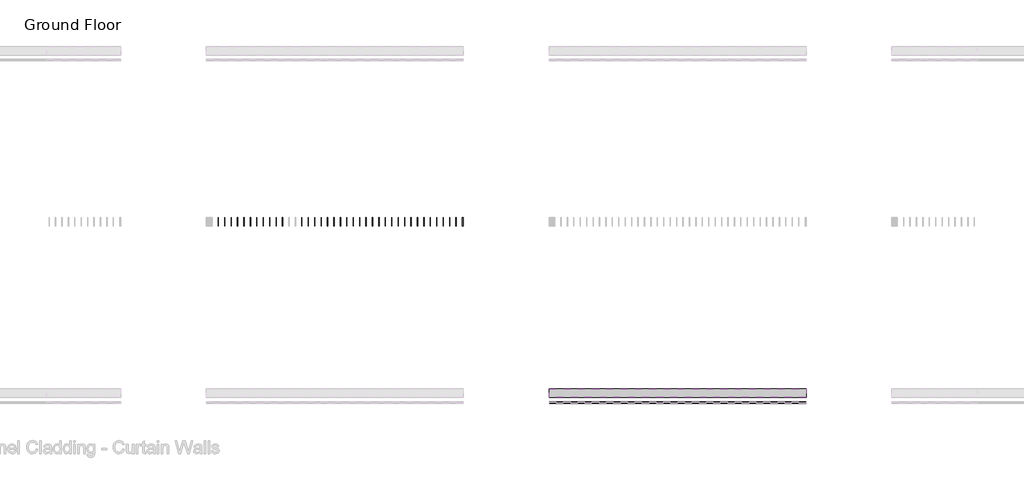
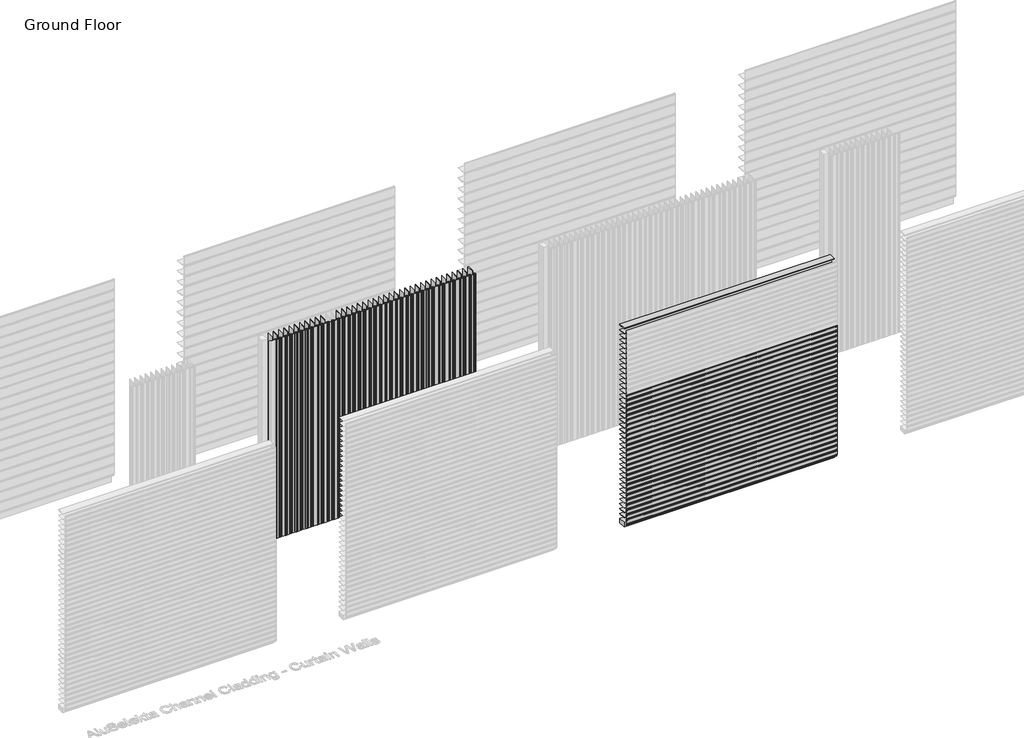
# One storey, part 30 of 350: 77 plates, 64 members.
"""IFC4 building model written with IfcOpenShell, lengths in millimetres."""

from ifc_helpers import new_model, si_unit, origin, place, context, project, spatial, transform, mapped, element, save
from components import rectangular_mullion_894c3da7, empty_system_panel_empty_02c6fd44, empty_system_panel_empty_81cf2ed3, empty_system_panel_empty_a36746fc, empty_system_panel_empty_27b459cb, empty_system_panel_empty_8dc9dcb4

model = new_model("IFC4")

# Units and contexts
model_context = context("Model", 3, world=origin())
ifc_project = project(units=[si_unit("LENGTHUNIT", "METRE", prefix="MILLI")], contexts=[model_context])

# Site, building, storey
site = spatial("IfcSite", under=ifc_project)
building = spatial("IfcBuilding", under=site)
storey = spatial("IfcBuildingStorey", under=building, Name="Ground Floor", Elevation=0.0)

# Members
placement = place(None, origin())
rectangular_mullion_shape = rectangular_mullion_894c3da7(model_context)
element("IfcMember", 1, ObjectType="Rectangular Mullion : Cladding_Aluminium_Modinex_AluSelekta_Channel_75_Cedar", at=placement, inside=storey, context=model_context, shape_type="MappedRepresentation", body=[
    mapped(rectangular_mullion_shape, transform((34566.4361642, 14968.2978302, 0.0), x_axis=(1.0, 0.0, 0.0), y_axis=(0.0, -1.0, 0.0), z_axis=(0.0, 0.0, -1.0))),
])
element("IfcMember", 2, ObjectType="Rectangular Mullion : Cladding_Aluminium_Modinex_AluSelekta_Channel_75_Cedar", at=placement, inside=storey, context=model_context, shape_type="MappedRepresentation", body=[
    mapped(rectangular_mullion_shape, transform((34641.4361642, 14968.2978302, 0.0), x_axis=(1.0, 0.0, 0.0), y_axis=(0.0, -1.0, 0.0), z_axis=(0.0, 0.0, -1.0))),
])
element("IfcMember", 3, ObjectType="Rectangular Mullion : Cladding_Aluminium_Modinex_AluSelekta_Channel_75_Cedar", at=placement, inside=storey, context=model_context, shape_type="MappedRepresentation", body=[
    mapped(rectangular_mullion_shape, transform((34716.4361642, 14968.2978302, 0.0), x_axis=(1.0, 0.0, 0.0), y_axis=(0.0, -1.0, 0.0), z_axis=(0.0, 0.0, -1.0))),
])
element("IfcMember", 4, ObjectType="Rectangular Mullion : Cladding_Aluminium_Modinex_AluSelekta_Channel_75_Cedar", at=placement, inside=storey, context=model_context, shape_type="MappedRepresentation", body=[
    mapped(rectangular_mullion_shape, transform((34791.4361642, 14968.2978302, 0.0), x_axis=(1.0, 0.0, 0.0), y_axis=(0.0, -1.0, 0.0), z_axis=(0.0, 0.0, -1.0))),
])
element("IfcMember", 5, ObjectType="Rectangular Mullion : Cladding_Aluminium_Modinex_AluSelekta_Channel_75_Cedar", at=placement, inside=storey, context=model_context, shape_type="MappedRepresentation", body=[
    mapped(rectangular_mullion_shape, transform((34866.4361642, 14968.2978302, 0.0), x_axis=(1.0, 0.0, 0.0), y_axis=(0.0, -1.0, 0.0), z_axis=(0.0, 0.0, -1.0))),
])
element("IfcMember", 6, ObjectType="Rectangular Mullion : Cladding_Aluminium_Modinex_AluSelekta_Channel_75_Cedar", at=placement, inside=storey, context=model_context, shape_type="MappedRepresentation", body=[
    mapped(rectangular_mullion_shape, transform((34941.4361642, 14968.2978302, 0.0), x_axis=(1.0, 0.0, 0.0), y_axis=(0.0, -1.0, 0.0), z_axis=(0.0, 0.0, -1.0))),
])
element("IfcMember", 7, ObjectType="Rectangular Mullion : Cladding_Aluminium_Modinex_AluSelekta_Channel_75_Cedar", at=placement, inside=storey, context=model_context, shape_type="MappedRepresentation", body=[
    mapped(rectangular_mullion_shape, transform((35016.4361642, 14968.2978302, 0.0), x_axis=(1.0, 0.0, 0.0), y_axis=(0.0, -1.0, 0.0), z_axis=(0.0, 0.0, -1.0))),
])
element("IfcMember", 8, ObjectType="Rectangular Mullion : Cladding_Aluminium_Modinex_AluSelekta_Channel_75_Cedar", at=placement, inside=storey, context=model_context, shape_type="MappedRepresentation", body=[
    mapped(rectangular_mullion_shape, transform((35091.4361642, 14968.2978302, 0.0), x_axis=(1.0, 0.0, 0.0), y_axis=(0.0, -1.0, 0.0), z_axis=(0.0, 0.0, -1.0))),
])
element("IfcMember", 9, ObjectType="Rectangular Mullion : Cladding_Aluminium_Modinex_AluSelekta_Channel_75_Cedar", at=placement, inside=storey, context=model_context, shape_type="MappedRepresentation", body=[
    mapped(rectangular_mullion_shape, transform((35166.4361642, 14968.2978302, 0.0), x_axis=(1.0, 0.0, 0.0), y_axis=(0.0, -1.0, 0.0), z_axis=(0.0, 0.0, -1.0))),
])
element("IfcMember", 10, ObjectType="Rectangular Mullion : Cladding_Aluminium_Modinex_AluSelekta_Channel_75_Cedar", at=placement, inside=storey, context=model_context, shape_type="MappedRepresentation", body=[
    mapped(rectangular_mullion_shape, transform((35241.4361642, 14968.2978302, 0.0), x_axis=(1.0, 0.0, 0.0), y_axis=(0.0, -1.0, 0.0), z_axis=(0.0, 0.0, -1.0))),
])
element("IfcMember", 11, ObjectType="Rectangular Mullion : Cladding_Aluminium_Modinex_AluSelekta_Channel_75_Cedar", at=placement, inside=storey, context=model_context, shape_type="MappedRepresentation", body=[
    mapped(rectangular_mullion_shape, transform((35316.4361642, 14968.2978302, 0.0), x_axis=(1.0, 0.0, 0.0), y_axis=(0.0, -1.0, 0.0), z_axis=(0.0, 0.0, -1.0))),
])
element("IfcMember", 12, ObjectType="Rectangular Mullion : Cladding_Aluminium_Modinex_AluSelekta_Channel_75_Cedar", at=placement, inside=storey, context=model_context, shape_type="MappedRepresentation", body=[
    mapped(rectangular_mullion_shape, transform((35391.4361642, 14968.2978302, 0.0), x_axis=(1.0, 0.0, 0.0), y_axis=(0.0, -1.0, 0.0), z_axis=(0.0, 0.0, -1.0))),
])
element("IfcMember", 13, ObjectType="Rectangular Mullion : Cladding_Aluminium_Modinex_AluSelekta_Channel_75_Cedar", at=placement, inside=storey, context=model_context, shape_type="MappedRepresentation", body=[
    mapped(rectangular_mullion_shape, transform((35466.4361642, 14968.2978302, 0.0), x_axis=(1.0, 0.0, 0.0), y_axis=(0.0, -1.0, 0.0), z_axis=(0.0, 0.0, -1.0))),
])
element("IfcMember", 14, ObjectType="Rectangular Mullion : Cladding_Aluminium_Modinex_AluSelekta_Channel_75_Cedar", at=placement, inside=storey, context=model_context, shape_type="MappedRepresentation", body=[
    mapped(rectangular_mullion_shape, transform((35541.4361642, 14968.2978302, 0.0), x_axis=(1.0, 0.0, 0.0), y_axis=(0.0, -1.0, 0.0), z_axis=(0.0, 0.0, -1.0))),
])
element("IfcMember", 15, ObjectType="Rectangular Mullion : Cladding_Aluminium_Modinex_AluSelekta_Channel_75_Cedar", at=placement, inside=storey, context=model_context, shape_type="MappedRepresentation", body=[
    mapped(rectangular_mullion_shape, transform((35616.4361642, 14968.2978302, 0.0), x_axis=(1.0, 0.0, 0.0), y_axis=(0.0, -1.0, 0.0), z_axis=(0.0, 0.0, -1.0))),
])
element("IfcMember", 16, ObjectType="Rectangular Mullion : Cladding_Aluminium_Modinex_AluSelekta_Channel_75_Cedar", at=placement, inside=storey, context=model_context, shape_type="MappedRepresentation", body=[
    mapped(rectangular_mullion_shape, transform((35691.4361642, 14968.2978302, 0.0), x_axis=(1.0, 0.0, 0.0), y_axis=(0.0, -1.0, 0.0), z_axis=(0.0, 0.0, -1.0))),
])
element("IfcMember", 17, ObjectType="Rectangular Mullion : Cladding_Aluminium_Modinex_AluSelekta_Channel_75_Cedar", at=placement, inside=storey, context=model_context, shape_type="MappedRepresentation", body=[
    mapped(rectangular_mullion_shape, transform((35766.4361642, 14968.2978302, 0.0), x_axis=(1.0, 0.0, 0.0), y_axis=(0.0, -1.0, 0.0), z_axis=(0.0, 0.0, -1.0))),
])
element("IfcMember", 18, ObjectType="Rectangular Mullion : Cladding_Aluminium_Modinex_AluSelekta_Channel_75_Cedar", at=placement, inside=storey, context=model_context, shape_type="MappedRepresentation", body=[
    mapped(rectangular_mullion_shape, transform((35841.4361642, 14968.2978302, 0.0), x_axis=(1.0, 0.0, 0.0), y_axis=(0.0, -1.0, 0.0), z_axis=(0.0, 0.0, -1.0))),
])
element("IfcMember", 19, ObjectType="Rectangular Mullion : Cladding_Aluminium_Modinex_AluSelekta_Channel_75_Cedar", at=placement, inside=storey, context=model_context, shape_type="MappedRepresentation", body=[
    mapped(rectangular_mullion_shape, transform((34491.4361642, 14968.2978302, 0.0), x_axis=(1.0, 0.0, 0.0), y_axis=(0.0, -1.0, 0.0), z_axis=(0.0, 0.0, -1.0))),
])
element("IfcMember", 20, ObjectType="Rectangular Mullion : Cladding_Aluminium_Modinex_AluSelekta_Channel_75_Cedar", at=placement, inside=storey, context=model_context, shape_type="MappedRepresentation", body=[
    mapped(rectangular_mullion_shape, transform((34416.4361642, 14968.2978302, 0.0), x_axis=(1.0, 0.0, 0.0), y_axis=(0.0, -1.0, 0.0), z_axis=(0.0, 0.0, -1.0))),
])
element("IfcMember", 21, ObjectType="Rectangular Mullion : Cladding_Aluminium_Modinex_AluSelekta_Channel_75_Cedar", at=placement, inside=storey, context=model_context, shape_type="MappedRepresentation", body=[
    mapped(rectangular_mullion_shape, transform((34341.4361642, 14968.2978302, 0.0), x_axis=(1.0, 0.0, 0.0), y_axis=(0.0, -1.0, 0.0), z_axis=(0.0, 0.0, -1.0))),
])
element("IfcMember", 22, ObjectType="Rectangular Mullion : Cladding_Aluminium_Modinex_AluSelekta_Channel_75_Cedar", at=placement, inside=storey, context=model_context, shape_type="MappedRepresentation", body=[
    mapped(rectangular_mullion_shape, transform((34266.4361642, 14968.2978302, 0.0), x_axis=(1.0, 0.0, 0.0), y_axis=(0.0, -1.0, 0.0), z_axis=(0.0, 0.0, -1.0))),
])
element("IfcMember", 23, ObjectType="Rectangular Mullion : Cladding_Aluminium_Modinex_AluSelekta_Channel_75_Cedar", at=placement, inside=storey, context=model_context, shape_type="MappedRepresentation", body=[
    mapped(rectangular_mullion_shape, transform((34191.4361642, 14968.2978302, 0.0), x_axis=(1.0, 0.0, 0.0), y_axis=(0.0, -1.0, 0.0), z_axis=(0.0, 0.0, -1.0))),
])
element("IfcMember", 24, ObjectType="Rectangular Mullion : Cladding_Aluminium_Modinex_AluSelekta_Channel_75_Cedar", at=placement, inside=storey, context=model_context, shape_type="MappedRepresentation", body=[
    mapped(rectangular_mullion_shape, transform((34116.4361642, 14968.2978302, 0.0), x_axis=(1.0, 0.0, 0.0), y_axis=(0.0, -1.0, 0.0), z_axis=(0.0, 0.0, -1.0))),
])
element("IfcMember", 25, ObjectType="Rectangular Mullion : Cladding_Aluminium_Modinex_AluSelekta_Channel_75_Cedar", at=placement, inside=storey, context=model_context, shape_type="MappedRepresentation", body=[
    mapped(rectangular_mullion_shape, transform((34041.4361642, 14968.2978302, 0.0), x_axis=(1.0, 0.0, 0.0), y_axis=(0.0, -1.0, 0.0), z_axis=(0.0, 0.0, -1.0))),
])
element("IfcMember", 26, ObjectType="Rectangular Mullion : Cladding_Aluminium_Modinex_AluSelekta_Channel_75_Cedar", at=placement, inside=storey, context=model_context, shape_type="MappedRepresentation", body=[
    mapped(rectangular_mullion_shape, transform((33966.4361642, 14968.2978302, 0.0), x_axis=(1.0, 0.0, 0.0), y_axis=(0.0, -1.0, 0.0), z_axis=(0.0, 0.0, -1.0))),
])
element("IfcMember", 27, ObjectType="Rectangular Mullion : Cladding_Aluminium_Modinex_AluSelekta_Channel_75_Cedar", at=placement, inside=storey, context=model_context, shape_type="MappedRepresentation", body=[
    mapped(rectangular_mullion_shape, transform((33891.4361642, 14968.2978302, 0.0), x_axis=(1.0, 0.0, 0.0), y_axis=(0.0, -1.0, 0.0), z_axis=(0.0, 0.0, -1.0))),
])
element("IfcMember", 28, ObjectType="Rectangular Mullion : Cladding_Aluminium_Modinex_AluSelekta_Channel_75_Cedar", at=placement, inside=storey, context=model_context, shape_type="MappedRepresentation", body=[
    mapped(rectangular_mullion_shape, transform((33816.4361642, 14968.2978302, 0.0), x_axis=(1.0, 0.0, 0.0), y_axis=(0.0, -1.0, 0.0), z_axis=(0.0, 0.0, -1.0))),
])
element("IfcMember", 29, ObjectType="Rectangular Mullion : Cladding_Aluminium_Modinex_AluSelekta_Channel_75_Cedar", at=placement, inside=storey, context=model_context, shape_type="MappedRepresentation", body=[
    mapped(rectangular_mullion_shape, transform((33741.4361642, 14968.2978302, 0.0), x_axis=(1.0, 0.0, 0.0), y_axis=(0.0, -1.0, 0.0), z_axis=(0.0, 0.0, -1.0))),
])
element("IfcMember", 30, ObjectType="Rectangular Mullion : Cladding_Aluminium_Modinex_AluSelekta_Channel_75_Cedar", at=placement, inside=storey, context=model_context, shape_type="MappedRepresentation", body=[
    mapped(rectangular_mullion_shape, transform((33666.4361642, 14968.2978302, 0.0), x_axis=(1.0, 0.0, 0.0), y_axis=(0.0, -1.0, 0.0), z_axis=(0.0, 0.0, -1.0))),
])
element("IfcMember", 31, ObjectType="Rectangular Mullion : Cladding_Aluminium_Modinex_AluSelekta_Channel_75_Cedar", at=placement, inside=storey, context=model_context, shape_type="MappedRepresentation", body=[
    mapped(rectangular_mullion_shape, transform((33591.4361642, 14968.2978302, 0.0), x_axis=(1.0, 0.0, 0.0), y_axis=(0.0, -1.0, 0.0), z_axis=(0.0, 0.0, -1.0))),
])
element("IfcMember", 32, ObjectType="Rectangular Mullion : Cladding_Aluminium_Modinex_AluSelekta_Channel_75_Cedar", at=placement, inside=storey, context=model_context, shape_type="MappedRepresentation", body=[
    mapped(rectangular_mullion_shape, transform((33516.4361642, 14968.2978302, 0.0), x_axis=(1.0, 0.0, 0.0), y_axis=(0.0, -1.0, 0.0), z_axis=(0.0, 0.0, -1.0))),
])
element("IfcMember", 33, ObjectType="Rectangular Mullion : Cladding_Aluminium_Modinex_AluSelekta_Channel_75_Cedar", at=placement, inside=storey, context=model_context, shape_type="MappedRepresentation", body=[
    mapped(rectangular_mullion_shape, transform((33441.4361642, 14968.2978302, 0.0), x_axis=(1.0, 0.0, 0.0), y_axis=(0.0, -1.0, 0.0), z_axis=(0.0, 0.0, -1.0))),
])
element("IfcMember", 34, ObjectType="Rectangular Mullion : Cladding_Aluminium_Modinex_AluSelekta_Channel_75_Cedar", at=placement, inside=storey, context=model_context, shape_type="MappedRepresentation", body=[
    mapped(rectangular_mullion_shape, transform((33366.4361642, 14968.2978302, 0.0), x_axis=(1.0, 0.0, 0.0), y_axis=(0.0, -1.0, 0.0), z_axis=(0.0, 0.0, -1.0))),
])
element("IfcMember", 35, ObjectType="Rectangular Mullion : Cladding_Aluminium_Modinex_AluSelekta_Channel_75_Cedar", at=placement, inside=storey, context=model_context, shape_type="MappedRepresentation", body=[
    mapped(rectangular_mullion_shape, transform((33291.4361642, 14968.2978302, 0.0), x_axis=(1.0, 0.0, 0.0), y_axis=(0.0, -1.0, 0.0), z_axis=(0.0, 0.0, -1.0))),
])
element("IfcMember", 36, ObjectType="Rectangular Mullion : Cladding_Aluminium_Modinex_AluSelekta_Channel_75_Cedar", at=placement, inside=storey, context=model_context, shape_type="MappedRepresentation", body=[
    mapped(rectangular_mullion_shape, transform((33216.4361642, 14968.2978302, 0.0), x_axis=(1.0, 0.0, 0.0), y_axis=(0.0, -1.0, 0.0), z_axis=(0.0, 0.0, -1.0))),
])
element("IfcMember", 37, ObjectType="Rectangular Mullion : Cladding_Aluminium_Modinex_AluSelekta_Channel_75_Cedar", at=placement, inside=storey, context=model_context, shape_type="MappedRepresentation", body=[
    mapped(rectangular_mullion_shape, transform((33141.4361642, 14968.2978302, 0.0), x_axis=(1.0, 0.0, 0.0), y_axis=(0.0, -1.0, 0.0), z_axis=(0.0, 0.0, -1.0))),
])
element("IfcMember", 38, ObjectType="Rectangular Mullion : Cladding_Aluminium_Modinex_AluSelekta_Channel_75_Cedar", at=placement, inside=storey, context=model_context, shape_type="MappedRepresentation", body=[
    mapped(rectangular_mullion_shape, transform((33066.4361642, 14968.2978302, 0.0), x_axis=(1.0, 0.0, 0.0), y_axis=(0.0, -1.0, 0.0), z_axis=(0.0, 0.0, -1.0))),
])
element("IfcMember", 39, ObjectType="Rectangular Mullion : Cladding_Aluminium_Modinex_AluSelekta_Channel_75_EnglishOak", at=placement, inside=storey, context=model_context, shape_type="MappedRepresentation", body=[
    mapped(rectangular_mullion_shape, transform((39916.4361639, 12968.2978302, 75.0), x_axis=(0.0, 0.0, 1.0), y_axis=(0.0, -1.0, 0.0), z_axis=(1.0, 0.0, 0.0))),
])
element("IfcMember", 40, ObjectType="Rectangular Mullion : Cladding_Aluminium_Modinex_AluSelekta_Channel_75_EnglishOak", at=placement, inside=storey, context=model_context, shape_type="MappedRepresentation", body=[
    mapped(rectangular_mullion_shape, transform((39916.4361639, 12968.2978302, 150.0), x_axis=(0.0, 0.0, 1.0), y_axis=(0.0, -1.0, 0.0), z_axis=(1.0, 0.0, 0.0))),
])
element("IfcMember", 41, ObjectType="Rectangular Mullion : Cladding_Aluminium_Modinex_AluSelekta_Channel_75_EnglishOak", at=placement, inside=storey, context=model_context, shape_type="MappedRepresentation", body=[
    mapped(rectangular_mullion_shape, transform((39916.4361639, 12968.2978302, 225.0), x_axis=(0.0, 0.0, 1.0), y_axis=(0.0, -1.0, 0.0), z_axis=(1.0, 0.0, 0.0))),
])
element("IfcMember", 42, ObjectType="Rectangular Mullion : Cladding_Aluminium_Modinex_AluSelekta_Channel_75_EnglishOak", at=placement, inside=storey, context=model_context, shape_type="MappedRepresentation", body=[
    mapped(rectangular_mullion_shape, transform((39916.4361639, 12968.2978302, 300.0), x_axis=(0.0, 0.0, 1.0), y_axis=(0.0, -1.0, 0.0), z_axis=(1.0, 0.0, 0.0))),
])
element("IfcMember", 43, ObjectType="Rectangular Mullion : Cladding_Aluminium_Modinex_AluSelekta_Channel_75_EnglishOak", at=placement, inside=storey, context=model_context, shape_type="MappedRepresentation", body=[
    mapped(rectangular_mullion_shape, transform((39916.4361639, 12968.2978302, 375.0), x_axis=(0.0, 0.0, 1.0), y_axis=(0.0, -1.0, 0.0), z_axis=(1.0, 0.0, 0.0))),
])
element("IfcMember", 44, ObjectType="Rectangular Mullion : Cladding_Aluminium_Modinex_AluSelekta_Channel_75_EnglishOak", at=placement, inside=storey, context=model_context, shape_type="MappedRepresentation", body=[
    mapped(rectangular_mullion_shape, transform((39916.4361639, 12968.2978302, 450.0), x_axis=(0.0, 0.0, 1.0), y_axis=(0.0, -1.0, 0.0), z_axis=(1.0, 0.0, 0.0))),
])
element("IfcMember", 45, ObjectType="Rectangular Mullion : Cladding_Aluminium_Modinex_AluSelekta_Channel_75_EnglishOak", at=placement, inside=storey, context=model_context, shape_type="MappedRepresentation", body=[
    mapped(rectangular_mullion_shape, transform((39916.4361639, 12968.2978302, 525.0), x_axis=(0.0, 0.0, 1.0), y_axis=(0.0, -1.0, 0.0), z_axis=(1.0, 0.0, 0.0))),
])
element("IfcMember", 46, ObjectType="Rectangular Mullion : Cladding_Aluminium_Modinex_AluSelekta_Channel_75_EnglishOak", at=placement, inside=storey, context=model_context, shape_type="MappedRepresentation", body=[
    mapped(rectangular_mullion_shape, transform((39916.4361639, 12968.2978302, 600.0), x_axis=(0.0, 0.0, 1.0), y_axis=(0.0, -1.0, 0.0), z_axis=(1.0, 0.0, 0.0))),
])
element("IfcMember", 47, ObjectType="Rectangular Mullion : Cladding_Aluminium_Modinex_AluSelekta_Channel_75_EnglishOak", at=placement, inside=storey, context=model_context, shape_type="MappedRepresentation", body=[
    mapped(rectangular_mullion_shape, transform((39916.4361639, 12968.2978302, 675.0), x_axis=(0.0, 0.0, 1.0), y_axis=(0.0, -1.0, 0.0), z_axis=(1.0, 0.0, 0.0))),
])
element("IfcMember", 48, ObjectType="Rectangular Mullion : Cladding_Aluminium_Modinex_AluSelekta_Channel_75_EnglishOak", at=placement, inside=storey, context=model_context, shape_type="MappedRepresentation", body=[
    mapped(rectangular_mullion_shape, transform((39916.4361639, 12968.2978302, 750.0), x_axis=(0.0, 0.0, 1.0), y_axis=(0.0, -1.0, 0.0), z_axis=(1.0, 0.0, 0.0))),
])
element("IfcMember", 49, ObjectType="Rectangular Mullion : Cladding_Aluminium_Modinex_AluSelekta_Channel_75_EnglishOak", at=placement, inside=storey, context=model_context, shape_type="MappedRepresentation", body=[
    mapped(rectangular_mullion_shape, transform((39916.4361639, 12968.2978302, 825.0), x_axis=(0.0, 0.0, 1.0), y_axis=(0.0, -1.0, 0.0), z_axis=(1.0, 0.0, 0.0))),
])
element("IfcMember", 50, ObjectType="Rectangular Mullion : Cladding_Aluminium_Modinex_AluSelekta_Channel_75_EnglishOak", at=placement, inside=storey, context=model_context, shape_type="MappedRepresentation", body=[
    mapped(rectangular_mullion_shape, transform((39916.4361639, 12968.2978302, 900.0), x_axis=(0.0, 0.0, 1.0), y_axis=(0.0, -1.0, 0.0), z_axis=(1.0, 0.0, 0.0))),
])
element("IfcMember", 51, ObjectType="Rectangular Mullion : Cladding_Aluminium_Modinex_AluSelekta_Channel_75_EnglishOak", at=placement, inside=storey, context=model_context, shape_type="MappedRepresentation", body=[
    mapped(rectangular_mullion_shape, transform((39916.4361639, 12968.2978302, 975.0), x_axis=(0.0, 0.0, 1.0), y_axis=(0.0, -1.0, 0.0), z_axis=(1.0, 0.0, 0.0))),
])
element("IfcMember", 52, ObjectType="Rectangular Mullion : Cladding_Aluminium_Modinex_AluSelekta_Channel_75_EnglishOak", at=placement, inside=storey, context=model_context, shape_type="MappedRepresentation", body=[
    mapped(rectangular_mullion_shape, transform((39916.4361639, 12968.2978302, 1050.0), x_axis=(0.0, 0.0, 1.0), y_axis=(0.0, -1.0, 0.0), z_axis=(1.0, 0.0, 0.0))),
])
element("IfcMember", 53, ObjectType="Rectangular Mullion : Cladding_Aluminium_Modinex_AluSelekta_Channel_75_EnglishOak", at=placement, inside=storey, context=model_context, shape_type="MappedRepresentation", body=[
    mapped(rectangular_mullion_shape, transform((39916.4361639, 12968.2978302, 1125.0), x_axis=(0.0, 0.0, 1.0), y_axis=(0.0, -1.0, 0.0), z_axis=(1.0, 0.0, 0.0))),
])
element("IfcMember", 54, ObjectType="Rectangular Mullion : Cladding_Aluminium_Modinex_AluSelekta_Channel_75_EnglishOak", at=placement, inside=storey, context=model_context, shape_type="MappedRepresentation", body=[
    mapped(rectangular_mullion_shape, transform((39916.4361639, 12968.2978302, 1200.0), x_axis=(0.0, 0.0, 1.0), y_axis=(0.0, -1.0, 0.0), z_axis=(1.0, 0.0, 0.0))),
])
element("IfcMember", 55, ObjectType="Rectangular Mullion : Cladding_Aluminium_Modinex_AluSelekta_Channel_75_EnglishOak", at=placement, inside=storey, context=model_context, shape_type="MappedRepresentation", body=[
    mapped(rectangular_mullion_shape, transform((39916.4361639, 12968.2978302, 1275.0), x_axis=(0.0, 0.0, 1.0), y_axis=(0.0, -1.0, 0.0), z_axis=(1.0, 0.0, 0.0))),
])
element("IfcMember", 56, ObjectType="Rectangular Mullion : Cladding_Aluminium_Modinex_AluSelekta_Channel_75_EnglishOak", at=placement, inside=storey, context=model_context, shape_type="MappedRepresentation", body=[
    mapped(rectangular_mullion_shape, transform((39916.4361639, 12968.2978302, 1350.0), x_axis=(0.0, 0.0, 1.0), y_axis=(0.0, -1.0, 0.0), z_axis=(1.0, 0.0, 0.0))),
])
element("IfcMember", 57, ObjectType="Rectangular Mullion : Cladding_Aluminium_Modinex_AluSelekta_Channel_75_EnglishOak", at=placement, inside=storey, context=model_context, shape_type="MappedRepresentation", body=[
    mapped(rectangular_mullion_shape, transform((39916.4361639, 12968.2978302, 1425.0), x_axis=(0.0, 0.0, 1.0), y_axis=(0.0, -1.0, 0.0), z_axis=(1.0, 0.0, 0.0))),
])
element("IfcMember", 58, ObjectType="Rectangular Mullion : Cladding_Aluminium_Modinex_AluSelekta_Channel_75_EnglishOak", at=placement, inside=storey, context=model_context, shape_type="MappedRepresentation", body=[
    mapped(rectangular_mullion_shape, transform((39916.4361639, 12968.2978302, 1500.0), x_axis=(0.0, 0.0, 1.0), y_axis=(0.0, -1.0, 0.0), z_axis=(1.0, 0.0, 0.0))),
])
element("IfcMember", 59, ObjectType="Rectangular Mullion : Cladding_Aluminium_Modinex_AluSelekta_Channel_75_EnglishOak", at=placement, inside=storey, context=model_context, shape_type="MappedRepresentation", body=[
    mapped(rectangular_mullion_shape, transform((39916.4361639, 12968.2978302, 1575.0), x_axis=(0.0, 0.0, 1.0), y_axis=(0.0, -1.0, 0.0), z_axis=(1.0, 0.0, 0.0))),
])
element("IfcMember", 60, ObjectType="Rectangular Mullion : Cladding_Aluminium_Modinex_AluSelekta_Channel_75_EnglishOak", at=placement, inside=storey, context=model_context, shape_type="MappedRepresentation", body=[
    mapped(rectangular_mullion_shape, transform((39916.4361639, 12968.2978302, 1650.0), x_axis=(0.0, 0.0, 1.0), y_axis=(0.0, -1.0, 0.0), z_axis=(1.0, 0.0, 0.0))),
])
element("IfcMember", 61, ObjectType="Rectangular Mullion : Cladding_Aluminium_Modinex_AluSelekta_Channel_75_EnglishOak", at=placement, inside=storey, context=model_context, shape_type="MappedRepresentation", body=[
    mapped(rectangular_mullion_shape, transform((39916.4361639, 12968.2978302, 1725.0), x_axis=(0.0, 0.0, 1.0), y_axis=(0.0, -1.0, 0.0), z_axis=(1.0, 0.0, 0.0))),
])
element("IfcMember", 62, ObjectType="Rectangular Mullion : Cladding_Aluminium_Modinex_AluSelekta_Channel_75_EnglishOak", at=placement, inside=storey, context=model_context, shape_type="MappedRepresentation", body=[
    mapped(rectangular_mullion_shape, transform((39916.4361639, 12968.2978302, 1800.0), x_axis=(0.0, 0.0, 1.0), y_axis=(0.0, -1.0, 0.0), z_axis=(1.0, 0.0, 0.0))),
])
element("IfcMember", 63, ObjectType="Rectangular Mullion : Cladding_Aluminium_Modinex_AluSelekta_Channel_75_EnglishOak", at=placement, inside=storey, context=model_context, shape_type="MappedRepresentation", body=[
    mapped(rectangular_mullion_shape, transform((39916.4361639, 12968.2978302, 1875.0), x_axis=(0.0, 0.0, 1.0), y_axis=(0.0, -1.0, 0.0), z_axis=(1.0, 0.0, 0.0))),
])
element("IfcMember", 64, ObjectType="Rectangular Mullion : Cladding_Aluminium_Modinex_AluSelekta_Channel_75_EnglishOak", at=placement, inside=storey, context=model_context, shape_type="MappedRepresentation", body=[
    mapped(rectangular_mullion_shape, transform((39916.4361639, 12968.2978302, 1950.0), x_axis=(0.0, 0.0, 1.0), y_axis=(0.0, -1.0, 0.0), z_axis=(1.0, 0.0, 0.0))),
])

# Plates
empty_system_panel_empty_shape = empty_system_panel_empty_02c6fd44(model_context)
element("IfcPlate", 65, ObjectType="Empty System Panel : Empty", at=placement, inside=storey, context=model_context, shape_type="MappedRepresentation", body=[
    mapped(empty_system_panel_empty_shape, transform((38416.4361639, 12968.2978302, 137.2580963), x_axis=(1.0, 0.0, 0.0), y_axis=(0.0, 1.0, 0.0), z_axis=(0.0, 0.0, 1.0))),
])
element("IfcPlate", 66, ObjectType="Empty System Panel : Empty", at=placement, inside=storey, context=model_context, shape_type="MappedRepresentation", body=[
    mapped(empty_system_panel_empty_shape, transform((38416.4361639, 12968.2978302, 212.2580963), x_axis=(1.0, 0.0, 0.0), y_axis=(0.0, 1.0, 0.0), z_axis=(0.0, 0.0, 1.0))),
])
element("IfcPlate", 67, ObjectType="Empty System Panel : Empty", at=placement, inside=storey, context=model_context, shape_type="MappedRepresentation", body=[
    mapped(empty_system_panel_empty_shape, transform((38416.4361639, 12968.2978302, 287.2580963), x_axis=(1.0, 0.0, 0.0), y_axis=(0.0, 1.0, 0.0), z_axis=(0.0, 0.0, 1.0))),
])
element("IfcPlate", 68, ObjectType="Empty System Panel : Empty", at=placement, inside=storey, context=model_context, shape_type="MappedRepresentation", body=[
    mapped(empty_system_panel_empty_shape, transform((38416.4361639, 12968.2978302, 362.2580963), x_axis=(1.0, 0.0, 0.0), y_axis=(0.0, 1.0, 0.0), z_axis=(0.0, 0.0, 1.0))),
])
element("IfcPlate", 69, ObjectType="Empty System Panel : Empty", at=placement, inside=storey, context=model_context, shape_type="MappedRepresentation", body=[
    mapped(empty_system_panel_empty_shape, transform((38416.4361639, 12968.2978302, 437.2580963), x_axis=(1.0, 0.0, 0.0), y_axis=(0.0, 1.0, 0.0), z_axis=(0.0, 0.0, 1.0))),
])
element("IfcPlate", 70, ObjectType="Empty System Panel : Empty", at=placement, inside=storey, context=model_context, shape_type="MappedRepresentation", body=[
    mapped(empty_system_panel_empty_shape, transform((38416.4361639, 12968.2978302, 512.2580963), x_axis=(1.0, 0.0, 0.0), y_axis=(0.0, 1.0, 0.0), z_axis=(0.0, 0.0, 1.0))),
])
element("IfcPlate", 71, ObjectType="Empty System Panel : Empty", at=placement, inside=storey, context=model_context, shape_type="MappedRepresentation", body=[
    mapped(empty_system_panel_empty_shape, transform((38416.4361639, 12968.2978302, 587.2580963), x_axis=(1.0, 0.0, 0.0), y_axis=(0.0, 1.0, 0.0), z_axis=(0.0, 0.0, 1.0))),
])
element("IfcPlate", 72, ObjectType="Empty System Panel : Empty", at=placement, inside=storey, context=model_context, shape_type="MappedRepresentation", body=[
    mapped(empty_system_panel_empty_shape, transform((38416.4361639, 12968.2978302, 662.2580963), x_axis=(1.0, 0.0, 0.0), y_axis=(0.0, 1.0, 0.0), z_axis=(0.0, 0.0, 1.0))),
])
element("IfcPlate", 73, ObjectType="Empty System Panel : Empty", at=placement, inside=storey, context=model_context, shape_type="MappedRepresentation", body=[
    mapped(empty_system_panel_empty_shape, transform((38416.4361639, 12968.2978302, 737.2580963), x_axis=(1.0, 0.0, 0.0), y_axis=(0.0, 1.0, 0.0), z_axis=(0.0, 0.0, 1.0))),
])
element("IfcPlate", 74, ObjectType="Empty System Panel : Empty", at=placement, inside=storey, context=model_context, shape_type="MappedRepresentation", body=[
    mapped(empty_system_panel_empty_shape, transform((38416.4361639, 12968.2978302, 812.2580963), x_axis=(1.0, 0.0, 0.0), y_axis=(0.0, 1.0, 0.0), z_axis=(0.0, 0.0, 1.0))),
])
element("IfcPlate", 75, ObjectType="Empty System Panel : Empty", at=placement, inside=storey, context=model_context, shape_type="MappedRepresentation", body=[
    mapped(empty_system_panel_empty_shape, transform((38416.4361639, 12968.2978302, 887.2580963), x_axis=(1.0, 0.0, 0.0), y_axis=(0.0, 1.0, 0.0), z_axis=(0.0, 0.0, 1.0))),
])
element("IfcPlate", 76, ObjectType="Empty System Panel : Empty", at=placement, inside=storey, context=model_context, shape_type="MappedRepresentation", body=[
    mapped(empty_system_panel_empty_shape, transform((38416.4361639, 12968.2978302, 962.2580963), x_axis=(1.0, 0.0, 0.0), y_axis=(0.0, 1.0, 0.0), z_axis=(0.0, 0.0, 1.0))),
])
element("IfcPlate", 77, ObjectType="Empty System Panel : Empty", at=placement, inside=storey, context=model_context, shape_type="MappedRepresentation", body=[
    mapped(empty_system_panel_empty_shape, transform((38416.4361639, 12968.2978302, 1037.2580963), x_axis=(1.0, 0.0, 0.0), y_axis=(0.0, 1.0, 0.0), z_axis=(0.0, 0.0, 1.0))),
])
element("IfcPlate", 78, ObjectType="Empty System Panel : Empty", at=placement, inside=storey, context=model_context, shape_type="MappedRepresentation", body=[
    mapped(empty_system_panel_empty_shape, transform((38416.4361639, 12968.2978302, 1112.2580963), x_axis=(1.0, 0.0, 0.0), y_axis=(0.0, 1.0, 0.0), z_axis=(0.0, 0.0, 1.0))),
])
element("IfcPlate", 79, ObjectType="Empty System Panel : Empty", at=placement, inside=storey, context=model_context, shape_type="MappedRepresentation", body=[
    mapped(empty_system_panel_empty_shape, transform((38416.4361639, 12968.2978302, 1187.2580963), x_axis=(1.0, 0.0, 0.0), y_axis=(0.0, 1.0, 0.0), z_axis=(0.0, 0.0, 1.0))),
])
element("IfcPlate", 80, ObjectType="Empty System Panel : Empty", at=placement, inside=storey, context=model_context, shape_type="MappedRepresentation", body=[
    mapped(empty_system_panel_empty_shape, transform((38416.4361639, 12968.2978302, 1262.2580963), x_axis=(1.0, 0.0, 0.0), y_axis=(0.0, 1.0, 0.0), z_axis=(0.0, 0.0, 1.0))),
])
element("IfcPlate", 81, ObjectType="Empty System Panel : Empty", at=placement, inside=storey, context=model_context, shape_type="MappedRepresentation", body=[
    mapped(empty_system_panel_empty_shape, transform((38416.4361639, 12968.2978302, 1337.2580963), x_axis=(1.0, 0.0, 0.0), y_axis=(0.0, 1.0, 0.0), z_axis=(0.0, 0.0, 1.0))),
])
element("IfcPlate", 82, ObjectType="Empty System Panel : Empty", at=placement, inside=storey, context=model_context, shape_type="MappedRepresentation", body=[
    mapped(empty_system_panel_empty_shape, transform((38416.4361639, 12968.2978302, 1412.2580963), x_axis=(1.0, 0.0, 0.0), y_axis=(0.0, 1.0, 0.0), z_axis=(0.0, 0.0, 1.0))),
])
element("IfcPlate", 83, ObjectType="Empty System Panel : Empty", at=placement, inside=storey, context=model_context, shape_type="MappedRepresentation", body=[
    mapped(empty_system_panel_empty_shape, transform((38416.4361639, 12968.2978302, 1487.2580963), x_axis=(1.0, 0.0, 0.0), y_axis=(0.0, 1.0, 0.0), z_axis=(0.0, 0.0, 1.0))),
])
element("IfcPlate", 84, ObjectType="Empty System Panel : Empty", at=placement, inside=storey, context=model_context, shape_type="MappedRepresentation", body=[
    mapped(empty_system_panel_empty_shape, transform((38416.4361639, 12968.2978302, 1562.2580963), x_axis=(1.0, 0.0, 0.0), y_axis=(0.0, 1.0, 0.0), z_axis=(0.0, 0.0, 1.0))),
])
element("IfcPlate", 85, ObjectType="Empty System Panel : Empty", at=placement, inside=storey, context=model_context, shape_type="MappedRepresentation", body=[
    mapped(empty_system_panel_empty_shape, transform((38416.4361639, 12968.2978302, 1637.2580963), x_axis=(1.0, 0.0, 0.0), y_axis=(0.0, 1.0, 0.0), z_axis=(0.0, 0.0, 1.0))),
])
element("IfcPlate", 86, ObjectType="Empty System Panel : Empty", at=placement, inside=storey, context=model_context, shape_type="MappedRepresentation", body=[
    mapped(empty_system_panel_empty_shape, transform((38416.4361639, 12968.2978302, 1712.2580963), x_axis=(1.0, 0.0, 0.0), y_axis=(0.0, 1.0, 0.0), z_axis=(0.0, 0.0, 1.0))),
])
element("IfcPlate", 87, ObjectType="Empty System Panel : Empty", at=placement, inside=storey, context=model_context, shape_type="MappedRepresentation", body=[
    mapped(empty_system_panel_empty_shape, transform((38416.4361639, 12968.2978302, 1787.2580963), x_axis=(1.0, 0.0, 0.0), y_axis=(0.0, 1.0, 0.0), z_axis=(0.0, 0.0, 1.0))),
])
element("IfcPlate", 88, ObjectType="Empty System Panel : Empty", at=placement, inside=storey, context=model_context, shape_type="MappedRepresentation", body=[
    mapped(empty_system_panel_empty_shape, transform((38416.4361639, 12968.2978302, 1862.2580963), x_axis=(1.0, 0.0, 0.0), y_axis=(0.0, 1.0, 0.0), z_axis=(0.0, 0.0, 1.0))),
])
element("IfcPlate", 89, ObjectType="Empty System Panel : Empty", at=placement, inside=storey, context=model_context, shape_type="MappedRepresentation", body=[
    mapped(empty_system_panel_empty_shape, transform((38416.4361639, 12968.2978302, 1937.2580963), x_axis=(1.0, 0.0, 0.0), y_axis=(0.0, 1.0, 0.0), z_axis=(0.0, 0.0, 1.0))),
])
element("IfcPlate", 90, ObjectType="Empty System Panel : Empty", at=placement, inside=storey, context=model_context, shape_type="MappedRepresentation", body=[
    mapped(empty_system_panel_empty_shape, transform((38416.4361639, 12968.2978302, 2012.2580963), x_axis=(1.0, 0.0, 0.0), y_axis=(0.0, 1.0, 0.0), z_axis=(0.0, 0.0, 1.0))),
])
element("IfcPlate", 91, ObjectType="Empty System Panel : Empty", at=placement, inside=storey, context=model_context, shape_type="MappedRepresentation", body=[
    mapped(empty_system_panel_empty_shape, transform((38416.4361639, 12968.2978302, 2087.2580963), x_axis=(1.0, 0.0, 0.0), y_axis=(0.0, 1.0, 0.0), z_axis=(0.0, 0.0, 1.0))),
])
element("IfcPlate", 92, ObjectType="Empty System Panel : Empty", at=placement, inside=storey, context=model_context, shape_type="MappedRepresentation", body=[
    mapped(empty_system_panel_empty_shape, transform((38416.4361639, 12968.2978302, 2162.2580963), x_axis=(1.0, 0.0, 0.0), y_axis=(0.0, 1.0, 0.0), z_axis=(0.0, 0.0, 1.0))),
])
element("IfcPlate", 93, ObjectType="Empty System Panel : Empty", at=placement, inside=storey, context=model_context, shape_type="MappedRepresentation", body=[
    mapped(empty_system_panel_empty_shape, transform((38416.4361639, 12968.2978302, 2237.2580963), x_axis=(1.0, 0.0, 0.0), y_axis=(0.0, 1.0, 0.0), z_axis=(0.0, 0.0, 1.0))),
])
element("IfcPlate", 94, ObjectType="Empty System Panel : Empty", at=placement, inside=storey, context=model_context, shape_type="MappedRepresentation", body=[
    mapped(empty_system_panel_empty_shape, transform((38416.4361639, 12968.2978302, 2312.2580963), x_axis=(1.0, 0.0, 0.0), y_axis=(0.0, 1.0, 0.0), z_axis=(0.0, 0.0, 1.0))),
])
element("IfcPlate", 95, ObjectType="Empty System Panel : Empty", at=placement, inside=storey, context=model_context, shape_type="MappedRepresentation", body=[
    mapped(empty_system_panel_empty_shape, transform((38416.4361639, 12968.2978302, 2387.2580963), x_axis=(1.0, 0.0, 0.0), y_axis=(0.0, 1.0, 0.0), z_axis=(0.0, 0.0, 1.0))),
])
element("IfcPlate", 96, ObjectType="Empty System Panel : Empty", at=placement, inside=storey, context=model_context, shape_type="MappedRepresentation", body=[
    mapped(empty_system_panel_empty_shape, transform((38416.4361639, 12968.2978302, 2462.2580963), x_axis=(1.0, 0.0, 0.0), y_axis=(0.0, 1.0, 0.0), z_axis=(0.0, 0.0, 1.0))),
])
element("IfcPlate", 97, ObjectType="Empty System Panel : Empty", at=placement, inside=storey, context=model_context, shape_type="MappedRepresentation", body=[
    mapped(empty_system_panel_empty_shape, transform((38416.4361639, 12968.2978302, 2537.2580963), x_axis=(1.0, 0.0, 0.0), y_axis=(0.0, 1.0, 0.0), z_axis=(0.0, 0.0, 1.0))),
])
element("IfcPlate", 98, ObjectType="Empty System Panel : Empty", at=placement, inside=storey, context=model_context, shape_type="MappedRepresentation", body=[
    mapped(empty_system_panel_empty_shape, transform((38416.4361639, 12968.2978302, 2612.2580963), x_axis=(1.0, 0.0, 0.0), y_axis=(0.0, 1.0, 0.0), z_axis=(0.0, 0.0, 1.0))),
])
element("IfcPlate", 99, ObjectType="Empty System Panel : Empty", at=placement, inside=storey, context=model_context, shape_type="MappedRepresentation", body=[
    mapped(empty_system_panel_empty_shape, transform((38416.4361639, 12968.2978302, 2687.2580963), x_axis=(1.0, 0.0, 0.0), y_axis=(0.0, 1.0, 0.0), z_axis=(0.0, 0.0, 1.0))),
])
element("IfcPlate", 100, ObjectType="Empty System Panel : Empty", at=placement, inside=storey, context=model_context, shape_type="MappedRepresentation", body=[
    mapped(empty_system_panel_empty_shape, transform((38416.4361639, 12968.2978302, 2762.2580963), x_axis=(1.0, 0.0, 0.0), y_axis=(0.0, 1.0, 0.0), z_axis=(0.0, 0.0, 1.0))),
])
element("IfcPlate", 101, ObjectType="Empty System Panel : Empty", at=placement, inside=storey, context=model_context, shape_type="MappedRepresentation", body=[
    mapped(empty_system_panel_empty_shape, transform((38416.4361639, 12968.2978302, 2837.2580963), x_axis=(1.0, 0.0, 0.0), y_axis=(0.0, 1.0, 0.0), z_axis=(0.0, 0.0, 1.0))),
])
element("IfcPlate", 102, ObjectType="Empty System Panel : Empty", at=placement, inside=storey, context=model_context, shape_type="MappedRepresentation", body=[
    mapped(empty_system_panel_empty_shape, transform((38416.4361639, 12968.2978302, 2912.2580963), x_axis=(1.0, 0.0, 0.0), y_axis=(0.0, 1.0, 0.0), z_axis=(0.0, 0.0, 1.0))),
])
empty_system_panel_empty_2_shape = empty_system_panel_empty_81cf2ed3(model_context)
element("IfcPlate", 103, ObjectType="Empty System Panel : Empty", at=placement, inside=storey, context=model_context, shape_type="MappedRepresentation", body=[
    mapped(empty_system_panel_empty_2_shape, transform((38416.4361639, 12968.2978302, 0.0), x_axis=(1.0, 0.0, 0.0), y_axis=(0.0, 1.0, 0.0), z_axis=(0.0, 0.0, 1.0))),
])
empty_system_panel_empty_3_shape = empty_system_panel_empty_a36746fc(model_context)
element("IfcPlate", 104, ObjectType="Empty System Panel : Empty", at=placement, inside=storey, context=model_context, shape_type="MappedRepresentation", body=[
    mapped(empty_system_panel_empty_3_shape, transform((38416.4361639, 12968.2978302, 2987.2580963), x_axis=(1.0, 0.0, 0.0), y_axis=(0.0, 1.0, 0.0), z_axis=(0.0, 0.0, 1.0))),
])
empty_system_panel_empty_4_shape = empty_system_panel_empty_27b459cb(model_context)
element("IfcPlate", 105, ObjectType="Empty System Panel : Empty", at=placement, inside=storey, context=model_context, shape_type="MappedRepresentation", body=[
    mapped(empty_system_panel_empty_4_shape, transform((34629.9529326, 14968.2978302, 0.0), x_axis=(1.0, 0.0, 0.0), y_axis=(0.0, 1.0, 0.0), z_axis=(0.0, 0.0, 1.0))),
])
element("IfcPlate", 106, ObjectType="Empty System Panel : Empty", at=placement, inside=storey, context=model_context, shape_type="MappedRepresentation", body=[
    mapped(empty_system_panel_empty_4_shape, transform((34704.9529326, 14968.2978302, 0.0), x_axis=(1.0, 0.0, 0.0), y_axis=(0.0, 1.0, 0.0), z_axis=(0.0, 0.0, 1.0))),
])
element("IfcPlate", 107, ObjectType="Empty System Panel : Empty", at=placement, inside=storey, context=model_context, shape_type="MappedRepresentation", body=[
    mapped(empty_system_panel_empty_4_shape, transform((34779.9529326, 14968.2978302, 0.0), x_axis=(1.0, 0.0, 0.0), y_axis=(0.0, 1.0, 0.0), z_axis=(0.0, 0.0, 1.0))),
])
element("IfcPlate", 108, ObjectType="Empty System Panel : Empty", at=placement, inside=storey, context=model_context, shape_type="MappedRepresentation", body=[
    mapped(empty_system_panel_empty_4_shape, transform((34854.9529326, 14968.2978302, 0.0), x_axis=(1.0, 0.0, 0.0), y_axis=(0.0, 1.0, 0.0), z_axis=(0.0, 0.0, 1.0))),
])
element("IfcPlate", 109, ObjectType="Empty System Panel : Empty", at=placement, inside=storey, context=model_context, shape_type="MappedRepresentation", body=[
    mapped(empty_system_panel_empty_4_shape, transform((34929.9529326, 14968.2978302, 0.0), x_axis=(1.0, 0.0, 0.0), y_axis=(0.0, 1.0, 0.0), z_axis=(0.0, 0.0, 1.0))),
])
element("IfcPlate", 110, ObjectType="Empty System Panel : Empty", at=placement, inside=storey, context=model_context, shape_type="MappedRepresentation", body=[
    mapped(empty_system_panel_empty_4_shape, transform((35004.9529326, 14968.2978302, 0.0), x_axis=(1.0, 0.0, 0.0), y_axis=(0.0, 1.0, 0.0), z_axis=(0.0, 0.0, 1.0))),
])
element("IfcPlate", 111, ObjectType="Empty System Panel : Empty", at=placement, inside=storey, context=model_context, shape_type="MappedRepresentation", body=[
    mapped(empty_system_panel_empty_4_shape, transform((35079.9529326, 14968.2978302, 0.0), x_axis=(1.0, 0.0, 0.0), y_axis=(0.0, 1.0, 0.0), z_axis=(0.0, 0.0, 1.0))),
])
element("IfcPlate", 112, ObjectType="Empty System Panel : Empty", at=placement, inside=storey, context=model_context, shape_type="MappedRepresentation", body=[
    mapped(empty_system_panel_empty_4_shape, transform((35154.9529326, 14968.2978302, 0.0), x_axis=(1.0, 0.0, 0.0), y_axis=(0.0, 1.0, 0.0), z_axis=(0.0, 0.0, 1.0))),
])
element("IfcPlate", 113, ObjectType="Empty System Panel : Empty", at=placement, inside=storey, context=model_context, shape_type="MappedRepresentation", body=[
    mapped(empty_system_panel_empty_4_shape, transform((35229.9529326, 14968.2978302, 0.0), x_axis=(1.0, 0.0, 0.0), y_axis=(0.0, 1.0, 0.0), z_axis=(0.0, 0.0, 1.0))),
])
element("IfcPlate", 114, ObjectType="Empty System Panel : Empty", at=placement, inside=storey, context=model_context, shape_type="MappedRepresentation", body=[
    mapped(empty_system_panel_empty_4_shape, transform((35304.9529326, 14968.2978302, 0.0), x_axis=(1.0, 0.0, 0.0), y_axis=(0.0, 1.0, 0.0), z_axis=(0.0, 0.0, 1.0))),
])
element("IfcPlate", 115, ObjectType="Empty System Panel : Empty", at=placement, inside=storey, context=model_context, shape_type="MappedRepresentation", body=[
    mapped(empty_system_panel_empty_4_shape, transform((35379.9529326, 14968.2978302, 0.0), x_axis=(1.0, 0.0, 0.0), y_axis=(0.0, 1.0, 0.0), z_axis=(0.0, 0.0, 1.0))),
])
element("IfcPlate", 116, ObjectType="Empty System Panel : Empty", at=placement, inside=storey, context=model_context, shape_type="MappedRepresentation", body=[
    mapped(empty_system_panel_empty_4_shape, transform((35454.9529326, 14968.2978302, 0.0), x_axis=(1.0, 0.0, 0.0), y_axis=(0.0, 1.0, 0.0), z_axis=(0.0, 0.0, 1.0))),
])
element("IfcPlate", 117, ObjectType="Empty System Panel : Empty", at=placement, inside=storey, context=model_context, shape_type="MappedRepresentation", body=[
    mapped(empty_system_panel_empty_4_shape, transform((35529.9529326, 14968.2978302, 0.0), x_axis=(1.0, 0.0, 0.0), y_axis=(0.0, 1.0, 0.0), z_axis=(0.0, 0.0, 1.0))),
])
element("IfcPlate", 118, ObjectType="Empty System Panel : Empty", at=placement, inside=storey, context=model_context, shape_type="MappedRepresentation", body=[
    mapped(empty_system_panel_empty_4_shape, transform((35604.9529326, 14968.2978302, 0.0), x_axis=(1.0, 0.0, 0.0), y_axis=(0.0, 1.0, 0.0), z_axis=(0.0, 0.0, 1.0))),
])
element("IfcPlate", 119, ObjectType="Empty System Panel : Empty", at=placement, inside=storey, context=model_context, shape_type="MappedRepresentation", body=[
    mapped(empty_system_panel_empty_4_shape, transform((35679.9529326, 14968.2978302, 0.0), x_axis=(1.0, 0.0, 0.0), y_axis=(0.0, 1.0, 0.0), z_axis=(0.0, 0.0, 1.0))),
])
element("IfcPlate", 120, ObjectType="Empty System Panel : Empty", at=placement, inside=storey, context=model_context, shape_type="MappedRepresentation", body=[
    mapped(empty_system_panel_empty_4_shape, transform((35754.9529326, 14968.2978302, 0.0), x_axis=(1.0, 0.0, 0.0), y_axis=(0.0, 1.0, 0.0), z_axis=(0.0, 0.0, 1.0))),
])
element("IfcPlate", 121, ObjectType="Empty System Panel : Empty", at=placement, inside=storey, context=model_context, shape_type="MappedRepresentation", body=[
    mapped(empty_system_panel_empty_4_shape, transform((35829.9529326, 14968.2978302, 0.0), x_axis=(1.0, 0.0, 0.0), y_axis=(0.0, 1.0, 0.0), z_axis=(0.0, 0.0, 1.0))),
])
element("IfcPlate", 122, ObjectType="Empty System Panel : Empty", at=placement, inside=storey, context=model_context, shape_type="MappedRepresentation", body=[
    mapped(empty_system_panel_empty_4_shape, transform((34554.9529326, 14968.2978302, 0.0), x_axis=(1.0, 0.0, 0.0), y_axis=(0.0, 1.0, 0.0), z_axis=(0.0, 0.0, 1.0))),
])
element("IfcPlate", 123, ObjectType="Empty System Panel : Empty", at=placement, inside=storey, context=model_context, shape_type="MappedRepresentation", body=[
    mapped(empty_system_panel_empty_4_shape, transform((34479.9529326, 14968.2978302, 0.0), x_axis=(1.0, 0.0, 0.0), y_axis=(0.0, 1.0, 0.0), z_axis=(0.0, 0.0, 1.0))),
])
element("IfcPlate", 124, ObjectType="Empty System Panel : Empty", at=placement, inside=storey, context=model_context, shape_type="MappedRepresentation", body=[
    mapped(empty_system_panel_empty_4_shape, transform((34404.9529326, 14968.2978302, 0.0), x_axis=(1.0, 0.0, 0.0), y_axis=(0.0, 1.0, 0.0), z_axis=(0.0, 0.0, 1.0))),
])
element("IfcPlate", 125, ObjectType="Empty System Panel : Empty", at=placement, inside=storey, context=model_context, shape_type="MappedRepresentation", body=[
    mapped(empty_system_panel_empty_4_shape, transform((34329.9529326, 14968.2978302, 0.0), x_axis=(1.0, 0.0, 0.0), y_axis=(0.0, 1.0, 0.0), z_axis=(0.0, 0.0, 1.0))),
])
element("IfcPlate", 126, ObjectType="Empty System Panel : Empty", at=placement, inside=storey, context=model_context, shape_type="MappedRepresentation", body=[
    mapped(empty_system_panel_empty_4_shape, transform((34254.9529326, 14968.2978302, 0.0), x_axis=(1.0, 0.0, 0.0), y_axis=(0.0, 1.0, 0.0), z_axis=(0.0, 0.0, 1.0))),
])
element("IfcPlate", 127, ObjectType="Empty System Panel : Empty", at=placement, inside=storey, context=model_context, shape_type="MappedRepresentation", body=[
    mapped(empty_system_panel_empty_4_shape, transform((34179.9529326, 14968.2978302, 0.0), x_axis=(1.0, 0.0, 0.0), y_axis=(0.0, 1.0, 0.0), z_axis=(0.0, 0.0, 1.0))),
])
element("IfcPlate", 128, ObjectType="Empty System Panel : Empty", at=placement, inside=storey, context=model_context, shape_type="MappedRepresentation", body=[
    mapped(empty_system_panel_empty_4_shape, transform((34104.9529326, 14968.2978302, 0.0), x_axis=(1.0, 0.0, 0.0), y_axis=(0.0, 1.0, 0.0), z_axis=(0.0, 0.0, 1.0))),
])
element("IfcPlate", 129, ObjectType="Empty System Panel : Empty", at=placement, inside=storey, context=model_context, shape_type="MappedRepresentation", body=[
    mapped(empty_system_panel_empty_4_shape, transform((34029.9529326, 14968.2978302, 0.0), x_axis=(1.0, 0.0, 0.0), y_axis=(0.0, 1.0, 0.0), z_axis=(0.0, 0.0, 1.0))),
])
element("IfcPlate", 130, ObjectType="Empty System Panel : Empty", at=placement, inside=storey, context=model_context, shape_type="MappedRepresentation", body=[
    mapped(empty_system_panel_empty_4_shape, transform((33804.9529326, 14968.2978302, 0.0), x_axis=(1.0, 0.0, 0.0), y_axis=(0.0, 1.0, 0.0), z_axis=(0.0, 0.0, 1.0))),
])
element("IfcPlate", 131, ObjectType="Empty System Panel : Empty", at=placement, inside=storey, context=model_context, shape_type="MappedRepresentation", body=[
    mapped(empty_system_panel_empty_4_shape, transform((33729.9529326, 14968.2978302, 0.0), x_axis=(1.0, 0.0, 0.0), y_axis=(0.0, 1.0, 0.0), z_axis=(0.0, 0.0, 1.0))),
])
element("IfcPlate", 132, ObjectType="Empty System Panel : Empty", at=placement, inside=storey, context=model_context, shape_type="MappedRepresentation", body=[
    mapped(empty_system_panel_empty_4_shape, transform((33654.9529326, 14968.2978302, 0.0), x_axis=(1.0, 0.0, 0.0), y_axis=(0.0, 1.0, 0.0), z_axis=(0.0, 0.0, 1.0))),
])
element("IfcPlate", 133, ObjectType="Empty System Panel : Empty", at=placement, inside=storey, context=model_context, shape_type="MappedRepresentation", body=[
    mapped(empty_system_panel_empty_4_shape, transform((33579.9529326, 14968.2978302, 0.0), x_axis=(1.0, 0.0, 0.0), y_axis=(0.0, 1.0, 0.0), z_axis=(0.0, 0.0, 1.0))),
])
element("IfcPlate", 134, ObjectType="Empty System Panel : Empty", at=placement, inside=storey, context=model_context, shape_type="MappedRepresentation", body=[
    mapped(empty_system_panel_empty_4_shape, transform((33504.9529326, 14968.2978302, 0.0), x_axis=(1.0, 0.0, 0.0), y_axis=(0.0, 1.0, 0.0), z_axis=(0.0, 0.0, 1.0))),
])
element("IfcPlate", 135, ObjectType="Empty System Panel : Empty", at=placement, inside=storey, context=model_context, shape_type="MappedRepresentation", body=[
    mapped(empty_system_panel_empty_4_shape, transform((33429.9529326, 14968.2978302, 0.0), x_axis=(1.0, 0.0, 0.0), y_axis=(0.0, 1.0, 0.0), z_axis=(0.0, 0.0, 1.0))),
])
element("IfcPlate", 136, ObjectType="Empty System Panel : Empty", at=placement, inside=storey, context=model_context, shape_type="MappedRepresentation", body=[
    mapped(empty_system_panel_empty_4_shape, transform((33354.9529326, 14968.2978302, 0.0), x_axis=(1.0, 0.0, 0.0), y_axis=(0.0, 1.0, 0.0), z_axis=(0.0, 0.0, 1.0))),
])
element("IfcPlate", 137, ObjectType="Empty System Panel : Empty", at=placement, inside=storey, context=model_context, shape_type="MappedRepresentation", body=[
    mapped(empty_system_panel_empty_4_shape, transform((33279.9529326, 14968.2978302, 0.0), x_axis=(1.0, 0.0, 0.0), y_axis=(0.0, 1.0, 0.0), z_axis=(0.0, 0.0, 1.0))),
])
element("IfcPlate", 138, ObjectType="Empty System Panel : Empty", at=placement, inside=storey, context=model_context, shape_type="MappedRepresentation", body=[
    mapped(empty_system_panel_empty_4_shape, transform((33204.9529326, 14968.2978302, 0.0), x_axis=(1.0, 0.0, 0.0), y_axis=(0.0, 1.0, 0.0), z_axis=(0.0, 0.0, 1.0))),
])
element("IfcPlate", 139, ObjectType="Empty System Panel : Empty", at=placement, inside=storey, context=model_context, shape_type="MappedRepresentation", body=[
    mapped(empty_system_panel_empty_4_shape, transform((33129.9529326, 14968.2978302, 0.0), x_axis=(1.0, 0.0, 0.0), y_axis=(0.0, 1.0, 0.0), z_axis=(0.0, 0.0, 1.0))),
])
element("IfcPlate", 140, ObjectType="Empty System Panel : Empty", at=placement, inside=storey, context=model_context, shape_type="MappedRepresentation", body=[
    mapped(empty_system_panel_empty_4_shape, transform((33054.9529326, 14968.2978302, 0.0), x_axis=(1.0, 0.0, 0.0), y_axis=(0.0, 1.0, 0.0), z_axis=(0.0, 0.0, 1.0))),
])
empty_system_panel_empty_5_shape = empty_system_panel_empty_8dc9dcb4(model_context)
element("IfcPlate", 141, ObjectType="Empty System Panel : Empty", at=placement, inside=storey, context=model_context, shape_type="MappedRepresentation", body=[
    mapped(empty_system_panel_empty_5_shape, transform((35910.0652122, 14968.2978302, 0.0), x_axis=(1.0, 0.0, 0.0), y_axis=(0.0, 1.0, 0.0), z_axis=(0.0, 0.0, 1.0))),
])

save(model, "model.ifc")
